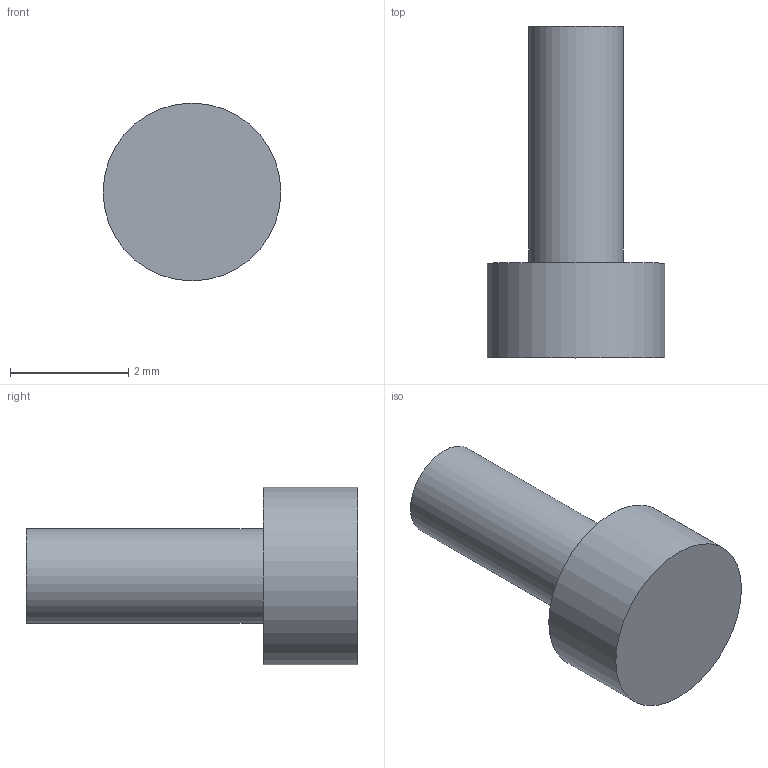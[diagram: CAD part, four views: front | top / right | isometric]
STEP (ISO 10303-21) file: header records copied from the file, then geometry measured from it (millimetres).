
FILE_DESCRIPTION(('Open CASCADE Model'),'2;1');
FILE_NAME('Open CASCADE Shape Model','2026-09-06T11:49:07',('Author'),( 'Open CASCADE'),'Open CASCADE STEP processor 7.8','build123d', 'Unknown');
FILE_SCHEMA(('AUTOMOTIVE_DESIGN { 1 0 10303 214 1 1 1 1 }'));
Length unit declared in the file: millimetre
Products named in the file (2): =>[0:1:1:2]; SOLID
Assembly tree (1 placements, depth 2):
  =>[0:1:1:2]
    SOLID
Bounding box: 3 x 5.6 x 3 mm (x, y, z)
Volume: 19.4 mm3; surface area: 49.3 mm2
Topology: 1 solids, 1 shells, 5 faces, 6 edges, 4 vertices
Faces by surface type: plane 3, cylinder 2
Full cylindrical faces by diameter (mm): 1.6 x1, 3 x1
Entity records: 210 total; most frequent: DIRECTION 36, CARTESIAN_POINT 29, ORIENTED_EDGE 12, PCURVE 12, DEFINITIONAL_REPRESENTATION 12, AXIS2_PLACEMENT_3D 11, LINE 10, VECTOR 10
